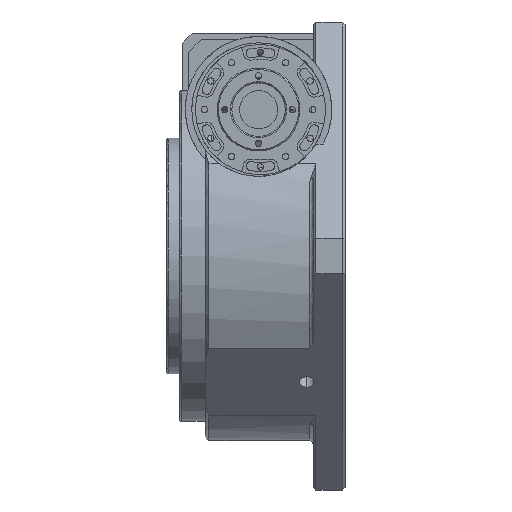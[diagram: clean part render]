
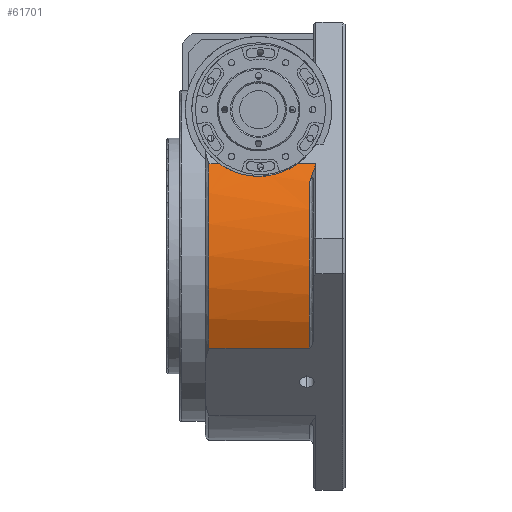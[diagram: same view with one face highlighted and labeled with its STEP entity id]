
A CAD part, left-side view. The second image highlights one B-rep face of the part: STEP entity #61701.
In plain terms, the highlighted cylindrical face has radius 145 mm (diameter 290 mm), a partial arc.
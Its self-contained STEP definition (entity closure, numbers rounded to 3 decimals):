
#314 = AXIS2_PLACEMENT_3D ( 'NONE', #75524, #37418, #81886 ) ;
#775 = DIRECTION ( 'NONE',  ( 0., 1., 0. ) ) ;
#3244 = ORIENTED_EDGE ( 'NONE', *, *, #29550, .T. ) ;
#5382 = EDGE_CURVE ( 'NONE', #63184, #26848, #70870, .T. ) ;
#5812 = CARTESIAN_POINT ( 'NONE',  ( -174.319, 9.705, 65.931 ) ) ;
#8770 = VERTEX_POINT ( 'NONE', #65545 ) ;
#9045 = CARTESIAN_POINT ( 'NONE',  ( -170.859, -39.712, 72.302 ) ) ;
#9239 = VERTEX_POINT ( 'NONE', #49631 ) ;
#11054 = CARTESIAN_POINT ( 'NONE',  ( -176.01, -6.373, 62.5 ) ) ;
#12178 = CARTESIAN_POINT ( 'NONE',  ( -172.5, 16.965, 69.386 ) ) ;
#12243 = DIRECTION ( 'NONE',  ( 0., 1., 0. ) ) ;
#12617 = EDGE_CURVE ( 'NONE', #9239, #45417, #36432, .T. ) ;
#12742 = DIRECTION ( 'NONE',  ( 0., -1., 0. ) ) ;
#14436 = CARTESIAN_POINT ( 'NONE',  ( -173.516, -52.777, 67.684 ) ) ;
#17496 = CARTESIAN_POINT ( 'NONE',  ( -176.01, -9.164, 62.5 ) ) ;
#18603 = CARTESIAN_POINT ( 'NONE',  ( -170.859, 21.383, 72.302 ) ) ;
#21178 = ORIENTED_EDGE ( 'NONE', *, *, #12617, .F. ) ;
#21487 = VECTOR ( 'NONE', #33317, 1000. ) ;
#23160 = ORIENTED_EDGE ( 'NONE', *, *, #28376, .F. ) ;
#23590 = ORIENTED_EDGE ( 'NONE', *, *, #55233, .F. ) ;
#24408 =( BOUNDED_CURVE ( )  B_SPLINE_CURVE ( 3, ( #58961, #14436, #52537, #65350 ),
 .UNSPECIFIED., .F., .F. ) 
 B_SPLINE_CURVE_WITH_KNOTS ( ( 4, 4 ),
 ( 0.263, 0.374 ),
 .UNSPECIFIED. ) 
 CURVE ( )  GEOMETRIC_REPRESENTATION_ITEM ( )  RATIONAL_B_SPLINE_CURVE ( ( 1., 0.999, 0.999, 1. ) ) 
 REPRESENTATION_ITEM ( '' )  );
#24717 = CARTESIAN_POINT ( 'NONE',  ( -175.905, -3.625, 62.721 ) ) ;
#25666 = VECTOR ( 'NONE', #12742, 1000. ) ;
#26848 = VERTEX_POINT ( 'NONE', #48875 ) ;
#26899 = CARTESIAN_POINT ( 'NONE',  ( -170.859, 32.836, 72.302 ) ) ;
#26925 = CARTESIAN_POINT ( 'NONE',  ( -45.171, 32.836, 0. ) ) ;
#27157 = VERTEX_POINT ( 'NONE', #49315 ) ;
#28376 = EDGE_CURVE ( 'NONE', #26848, #9239, #65061, .T. ) ;
#29127 = VECTOR ( 'NONE', #775, 1000. ) ;
#29370 = EDGE_CURVE ( 'NONE', #8770, #31523, #34249, .T. ) ;
#29550 = EDGE_CURVE ( 'NONE', #77581, #31523, #24408, .T. ) ;
#31102 = CARTESIAN_POINT ( 'NONE',  ( -175.462, 1.783, 63.636 ) ) ;
#31523 = VERTEX_POINT ( 'NONE', #70117 ) ;
#31569 = AXIS2_PLACEMENT_3D ( 'NONE', #50360, #12243, #56765 ) ;
#33317 = DIRECTION ( 'NONE',  ( 0., 1., 0. ) ) ;
#33399 = ORIENTED_EDGE ( 'NONE', *, *, #52750, .F. ) ;
#34249 = CIRCLE ( 'NONE', #31569, 145. ) ;
#35466 = ORIENTED_EDGE ( 'NONE', *, *, #38773, .F. ) ;
#36204 = ORIENTED_EDGE ( 'NONE', *, *, #5382, .F. ) ;
#36432 = LINE ( 'NONE', #26899, #21487 ) ;
#37418 = DIRECTION ( 'NONE',  ( 0., -1., 0. ) ) ;
#37534 = CARTESIAN_POINT ( 'NONE',  ( -175.14, 4.448, 64.291 ) ) ;
#38773 = EDGE_CURVE ( 'NONE', #27157, #8770, #76461, .T. ) ;
#38936 = CARTESIAN_POINT ( 'NONE',  ( -170.859, -52.164, 72.302 ) ) ;
#39990 = CARTESIAN_POINT ( 'NONE',  ( -170.859, 29.836, 72.302 ) ) ;
#42063 = LINE ( 'NONE', #38936, #29127 ) ;
#43911 = CARTESIAN_POINT ( 'NONE',  ( -174.854, 6.433, 64.866 ) ) ;
#45417 = VERTEX_POINT ( 'NONE', #39990 ) ;
#45826 = CYLINDRICAL_SURFACE ( 'NONE', #74846, 145. ) ;
#47248 = CARTESIAN_POINT ( 'NONE',  ( -170.859, -54.164, 72.302 ) ) ;
#48875 = CARTESIAN_POINT ( 'NONE',  ( -176.01, -9.164, 62.5 ) ) ;
#49315 = CARTESIAN_POINT ( 'NONE',  ( -170.859, 29.836, -72.302 ) ) ;
#49631 = CARTESIAN_POINT ( 'NONE',  ( -170.859, 21.383, 72.302 ) ) ;
#50285 = CARTESIAN_POINT ( 'NONE',  ( -173.787, 12.201, 66.97 ) ) ;
#50360 = CARTESIAN_POINT ( 'NONE',  ( -45.171, -49.164, 0. ) ) ;
#50848 = CARTESIAN_POINT ( 'NONE',  ( -170.859, -52.164, -72.302 ) ) ;
#51145 = CIRCLE ( 'NONE', #314, 145. ) ;
#51539 = EDGE_LOOP ( 'NONE', ( #36204, #23590, #3244, #79390, #35466, #33399, #21178, #23160 ) ) ;
#52537 = CARTESIAN_POINT ( 'NONE',  ( -175.915, -51.109, 62.926 ) ) ;
#52750 = EDGE_CURVE ( 'NONE', #45417, #27157, #51145, .T. ) ;
#55233 = EDGE_CURVE ( 'NONE', #77581, #63184, #42063, .T. ) ;
#56700 = CARTESIAN_POINT ( 'NONE',  ( -171.744, 19.232, 70.763 ) ) ;
#56765 = DIRECTION ( 'NONE',  ( 0., 0., 1. ) ) ;
#57598 = CARTESIAN_POINT ( 'NONE',  ( -176.01, -9.164, 62.5 ) ) ;
#57614 = CARTESIAN_POINT ( 'NONE',  ( -176.01, -11.955, 62.5 ) ) ;
#57697 = CARTESIAN_POINT ( 'NONE',  ( -175.905, -14.702, 62.721 ) ) ;
#57710 = CARTESIAN_POINT ( 'NONE',  ( -175.489, -20.111, 63.581 ) ) ;
#57880 = CARTESIAN_POINT ( 'NONE',  ( -175.178, -22.774, 64.22 ) ) ;
#57959 = CARTESIAN_POINT ( 'NONE',  ( -174.644, -26.048, 65.284 ) ) ;
#58069 = CARTESIAN_POINT ( 'NONE',  ( -174.53, -26.698, 65.51 ) ) ;
#58147 = CARTESIAN_POINT ( 'NONE',  ( -174.289, -27.98, 65.983 ) ) ;
#58234 = CARTESIAN_POINT ( 'NONE',  ( -174.162, -28.613, 66.231 ) ) ;
#58248 = CARTESIAN_POINT ( 'NONE',  ( -173.761, -30.491, 67.008 ) ) ;
#58354 = CARTESIAN_POINT ( 'NONE',  ( -173.467, -31.713, 67.57 ) ) ;
#58441 = CARTESIAN_POINT ( 'NONE',  ( -172.5, -35.292, 69.385 ) ) ;
#58687 = DIRECTION ( 'NONE',  ( 0., 0., -1. ) ) ;
#58961 = CARTESIAN_POINT ( 'NONE',  ( -170.859, -54.164, 72.302 ) ) ;
#59172 = CARTESIAN_POINT ( 'NONE',  ( -171.745, -37.56, 70.763 ) ) ;
#59245 = CARTESIAN_POINT ( 'NONE',  ( -170.859, -39.712, 72.302 ) ) ;
#61701 = ADVANCED_FACE ( 'NONE', ( #79664 ), #45826, .F. ) ;
#63184 = VERTEX_POINT ( 'NONE', #9045 ) ;
#65061 = B_SPLINE_CURVE_WITH_KNOTS ( 'NONE', 3,
 ( #17496, #11054, #24717, #69215, #31102, #75638, #37534, #81987, #43911, #5812, #50285, #12178, #56700, #18603 ),
 .UNSPECIFIED., .F., .F.,
 ( 4, 2, 2, 2, 2, 2, 4 ),
 ( 0.033, 0.041, 0.045, 0.047, 0.05, 0.058, 0.066 ),
 .UNSPECIFIED. ) ;
#65350 = CARTESIAN_POINT ( 'NONE',  ( -178.047, -49.164, 58.043 ) ) ;
#65545 = CARTESIAN_POINT ( 'NONE',  ( -170.859, -49.164, -72.302 ) ) ;
#69215 = CARTESIAN_POINT ( 'NONE',  ( -175.592, 0.438, 63.367 ) ) ;
#70117 = CARTESIAN_POINT ( 'NONE',  ( -178.047, -49.164, 58.043 ) ) ;
#70870 = B_SPLINE_CURVE_WITH_KNOTS ( 'NONE', 3,
 ( #59245, #59172, #58441, #58354, #58248, #58234, #58147, #58069, #57959, #57880, #57710, #57697, #57614, #57598 ),
 .UNSPECIFIED., .F., .F.,
 ( 4, 2, 2, 2, 2, 2, 4 ),
 ( 0., 0.008, 0.012, 0.014, 0.017, 0.025, 0.033 ),
 .UNSPECIFIED. ) ;
#71487 = DIRECTION ( 'NONE',  ( 0., -1., 0. ) ) ;
#74846 = AXIS2_PLACEMENT_3D ( 'NONE', #26925, #71487, #58687 ) ;
#75524 = CARTESIAN_POINT ( 'NONE',  ( -45.171, 29.836, 0. ) ) ;
#75638 = CARTESIAN_POINT ( 'NONE',  ( -175.225, 3.784, 64.117 ) ) ;
#76461 = LINE ( 'NONE', #50848, #25666 ) ;
#77581 = VERTEX_POINT ( 'NONE', #47248 ) ;
#79390 = ORIENTED_EDGE ( 'NONE', *, *, #29370, .F. ) ;
#79664 = FACE_OUTER_BOUND ( 'NONE', #51539, .T. ) ;
#81886 = DIRECTION ( 'NONE',  ( 0., 0., -1. ) ) ;
#81987 = CARTESIAN_POINT ( 'NONE',  ( -174.954, 5.772, 64.665 ) ) ;
